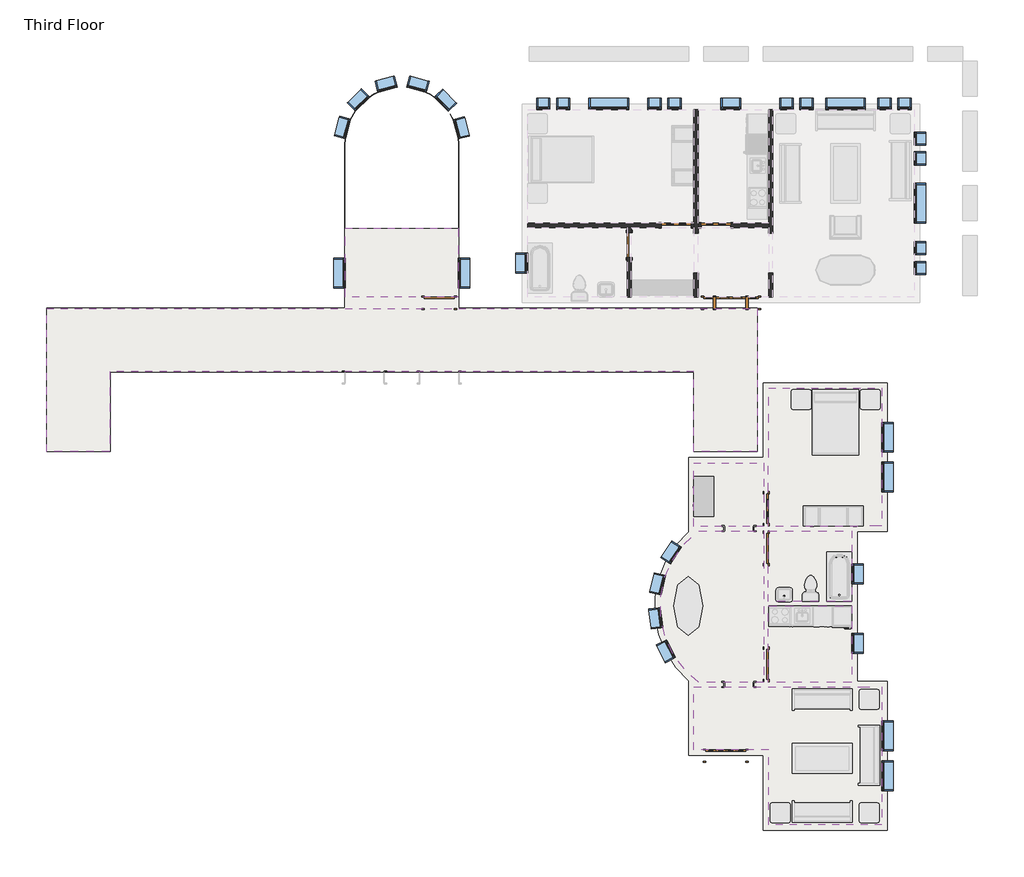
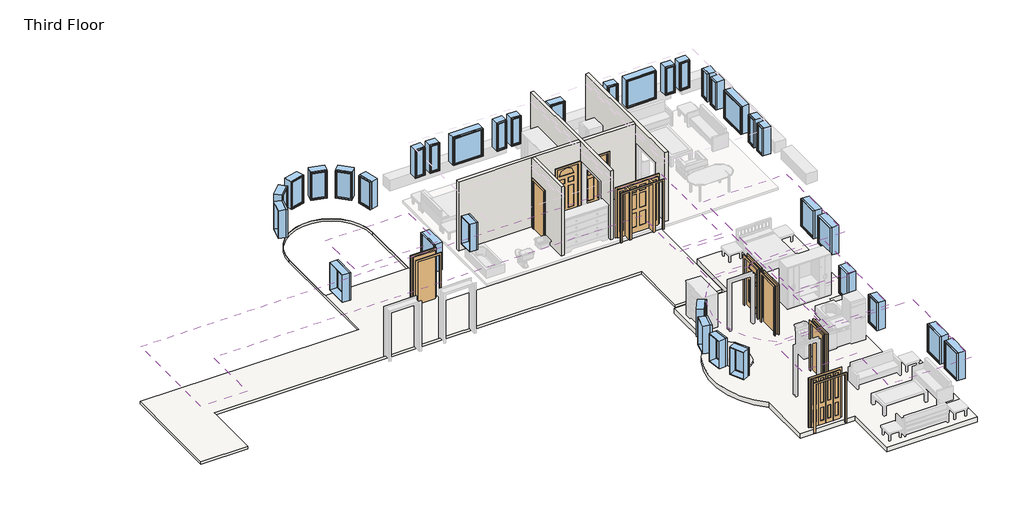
# One storey, part 1 of 2: 35 windows, 9 doors, 8 coverings, 5 walls, 2 slabs.
"""IFC4 building model written with IfcOpenShell, lengths in millimetres."""

from ifc_helpers import new_model, si_unit, point, frame, frame_2d, origin, place, context, project, spatial, polyline, circle_curve, trimmed, segment, composite_curve, outline, extrude, faceted_brep, transform, mapped, element, save
from components import m_bifold_4_panel_1220_x_2134mm_1a506c01, m_single_decorative_2_0915_x_2134mm_cc9a65e4, m_single_flush_0915_x_2134mm_ab9b6334, m_single_flush_0915_x_2134mm_08e0827a, door_829da954, door_2e3b4da2, door_4d6c7550, door_632be17d, door_dba5aa2e, window_da97879f, window_d61ef850, window_60baf983, window_15c49d37, window_6eb97611, m_fixed_0610_x_1220mm_2b91b687, m_fixed_0610_x_1220mm_9ad90eeb, m_fixed_0915_x_1220mm_ca90dcf7

model = new_model("IFC4")

# Units and contexts
model_context = context("Model", 3, world=origin())
ifc_project = project(units=[si_unit("LENGTHUNIT", "METRE", prefix="MILLI")], contexts=[model_context])

# Site, building, storey
site = spatial("IfcSite", under=ifc_project)
building = spatial("IfcBuilding", under=site)
storey = spatial("IfcBuildingStorey", under=building, Name="Third Floor", Elevation=6096.0)

# Coverings
placement = place(None, origin())
element("IfcCovering", 1, ObjectType="GWB on Mtl. Stud", at=placement, inside=storey, context=model_context, shape_type="SweptSolid", body=[
    extrude(outline(polyline([(-13333.3839563, 4526.4441867), (-16790.9589563, 4526.4441867), (-16790.9589563, 6636.2316867), (-13333.3839563, 6636.2316867), (-13333.3839563, 4526.4441867)])), frame((0.0, 0.0, 8534.4), z_axis=(0.0, 0.0, 1.0), x_axis=(1.0, 0.0, 0.0)), (0.0, 0.0, 1.0), 107.95),
])
element("IfcCovering", 2, ObjectType="GWB on Mtl. Stud", at=placement, inside=storey, context=model_context, shape_type="SweptSolid", body=[
    extrude(outline(polyline([(-6122.9589563, -197.9558133), (-6122.9589563, 2240.4441867), (-24001.3839563, 2240.4441867), (-24001.3839563, -197.9558133), (-25934.9589563, -197.9558133), (-25934.9589563, 4174.0191867), (-4189.3839563, 4174.0191867), (-4189.3839563, -197.9558133), (-6122.9589563, -197.9558133)])), frame((0.0, 0.0, 8534.4), z_axis=(0.0, 0.0, 1.0), x_axis=(1.0, 0.0, 0.0)), (0.0, 0.0, 1.0), 107.95),
])
element("IfcCovering", 3, ObjectType="Plain", at=placement, inside=storey, context=model_context, shape_type="SweptSolid", body=[
    extrude(outline(polyline([(-3836.9589563, -374.1683133), (-3836.9589563, 1735.6191867), (-379.3839563, 1735.6191867), (-379.3839563, -2483.9558133), (-1117.5714563, -2483.9558133), (-1117.5714563, -2492.4183133), (-3845.4214563, -2492.4183133), (-3845.4214563, -374.1683133), (-3836.9589563, -374.1683133)])), frame((0.0, 0.0, 8687.0), z_axis=(0.0, 0.0, 1.0), x_axis=(1.0, 0.0, 0.0)), (0.0, 0.0, 1.0), 57.0),
])
element("IfcCovering", 4, ObjectType="Plain", at=placement, inside=storey, context=model_context, shape_type="SweptSolid", body=[
    extrude(outline(polyline([(-3845.4214563, -2627.9183133), (-1293.7839563, -2627.9183133), (-1293.7839563, -4793.7683133), (-3845.4214563, -4793.7683133), (-3845.4214563, -2627.9183133)])), frame((0.0, 0.0, 8687.0), z_axis=(0.0, 0.0, 1.0), x_axis=(1.0, 0.0, 0.0)), (0.0, 0.0, 1.0), 57.0),
])
element("IfcCovering", 5, ObjectType="Plain", at=placement, inside=storey, context=model_context, shape_type="SweptSolid", body=[
    extrude(outline(polyline([(-3845.4214563, -4929.2683133), (-1293.7839563, -4929.2683133), (-1293.7839563, -7264.4183133), (-3845.4214563, -7264.4183133), (-3845.4214563, -4929.2683133)])), frame((0.0, 0.0, 8687.0), z_axis=(0.0, 0.0, 1.0), x_axis=(1.0, 0.0, 0.0)), (0.0, 0.0, 1.0), 57.0),
])
element("IfcCovering", 6, ObjectType="Plain", at=placement, inside=storey, context=model_context, shape_type="SweptSolid", body=[
    extrude(outline(polyline([(-6122.9589563, -7399.9183133), (-1117.5714563, -7399.9183133), (-1117.5714563, -7408.3808133), (-379.3839563, -7408.3808133), (-379.3839563, -11627.9558133), (-3836.9589563, -11627.9558133), (-3836.9589563, -9341.9558133), (-6122.9589563, -9341.9558133), (-6122.9589563, -7399.9183133)])), frame((0.0, 0.0, 8687.0), z_axis=(0.0, 0.0, 1.0), x_axis=(1.0, 0.0, 0.0)), (0.0, 0.0, 1.0), 57.0),
])
element("IfcCovering", 7, ObjectType="Plain", at=placement, inside=storey, context=model_context, shape_type="SweptSolid", body=[
    extrude(outline(composite_curve([segment(trimmed(circle_curve(frame_2d((-4283.1089573, -4946.1683133)), 2871.7875), [point((-5978.0662968, -7264.4183133))], [point((-5978.0662968, -2627.9183133))], False, "CARTESIAN"), True, "CONTINUOUS"), segment(polyline([(-5978.0662968, -2627.9183133), (-3980.9214563, -2627.9183133), (-3980.9214563, -7264.4183133), (-5978.0662968, -7264.4183133)]), True, "CONTINUOUS")], self_intersect=False)), frame((0.0, 0.0, 8687.0), z_axis=(0.0, 0.0, 1.0), x_axis=(1.0, 0.0, 0.0)), (0.0, 0.0, 1.0), 57.0),
])
element("IfcCovering", 8, ObjectType="Plain", at=placement, inside=storey, context=model_context, shape_type="SweptSolid", body=[
    extrude(outline(polyline([(-6122.9589563, -2492.4183133), (-6122.9589563, -550.3808133), (-3980.9214563, -550.3808133), (-3980.9214563, -2492.4183133), (-6122.9589563, -2492.4183133)])), frame((0.0, 0.0, 8687.0), z_axis=(0.0, 0.0, 1.0), x_axis=(1.0, 0.0, 0.0)), (0.0, 0.0, 1.0), 57.0),
])

# Doors
m_bifold_4_panel_1220_x_2134mm_shape = m_bifold_4_panel_1220_x_2134mm_1a506c01(model_context)
element("IfcDoor", 9, ObjectType="M_Bifold-4 Panel : 1220 x 2134mm", at=placement, inside=storey, context=model_context, shape_type="MappedRepresentation", body=[
    mapped(m_bifold_4_panel_1220_x_2134mm_shape, transform((-5156.1714563, -9518.1683133, 6096.0), x_axis=(1.0, 0.0, 0.0), y_axis=(0.0, 1.0, 0.0), z_axis=(0.0, 0.0, 1.0))),
])
m_single_decorative_2_0915_x_2134mm_shape = m_single_decorative_2_0915_x_2134mm_cc9a65e4(model_context)
element("IfcDoor", 10, ObjectType="M_Single-Decorative 2 : 0915 x 2134mm", at=placement, inside=storey, context=model_context, shape_type="MappedRepresentation", body=[
    mapped(m_single_decorative_2_0915_x_2134mm_shape, transform((-3913.1714563, -1953.9183133, 6096.0), x_axis=(0.0, -1.0, 0.0), y_axis=(1.0, 0.0, 0.0), z_axis=(0.0, 0.0, 1.0))),
])
m_single_flush_0915_x_2134mm_shape = m_single_flush_0915_x_2134mm_ab9b6334(model_context)
element("IfcDoor", 11, ObjectType="M_Single-Flush : 0915 x 2134mm", at=placement, inside=storey, context=model_context, shape_type="MappedRepresentation", body=[
    mapped(m_single_flush_0915_x_2134mm_shape, transform((-3913.1714563, -3173.9183133, 6096.0), x_axis=(0.0, 1.0, 0.0), y_axis=(-1.0, 0.0, 0.0), z_axis=(0.0, 0.0, 1.0))),
])
m_single_flush_0915_x_2134mm_2_shape = m_single_flush_0915_x_2134mm_08e0827a(model_context)
element("IfcDoor", 12, ObjectType="M_Single-Flush : 0915 x 2134mm", at=placement, inside=storey, context=model_context, shape_type="MappedRepresentation", body=[
    mapped(m_single_flush_0915_x_2134mm_2_shape, transform((-3913.1714563, -6722.1683133, 6096.0), x_axis=(0.0, -1.0, 0.0), y_axis=(1.0, 0.0, 0.0), z_axis=(0.0, 0.0, 1.0))),
])
door_shape = door_829da954(model_context)
element("IfcDoor", 13, ObjectType="Single-Decorative 2 : 36\" x 84\"", at=placement, inside=storey, context=model_context, shape_type="MappedRepresentation", body=[
    mapped(door_shape, transform((-5449.8589563, 6723.5441867, 6096.0), x_axis=(-1.0, 0.0, 0.0), y_axis=(0.0, -1.0, 0.0), z_axis=(0.0, 0.0, 1.0))),
])
door_2_shape = door_2e3b4da2(model_context)
element("IfcDoor", 14, ObjectType="Single-Decorative 2 : 36\" x 84\"", at=placement, inside=storey, context=model_context, shape_type="MappedRepresentation", body=[
    mapped(door_2_shape, transform((-6669.0589563, 6723.5441867, 6096.0), x_axis=(1.0, 0.0, 0.0), y_axis=(0.0, 1.0, 0.0), z_axis=(0.0, 0.0, 1.0))),
])
door_3_shape = door_4d6c7550(model_context)
element("IfcDoor", 15, ObjectType="Single-Flush : 30\" x 84\"", at=placement, inside=storey, context=model_context, shape_type="MappedRepresentation", body=[
    mapped(door_3_shape, transform((-8105.7464563, 6113.9441867, 6096.0), x_axis=(0.0, 1.0, 0.0), y_axis=(-1.0, 0.0, 0.0), z_axis=(0.0, 0.0, 1.0))),
])
door_4_shape = door_632be17d(model_context)
element("IfcDoor", 16, ObjectType="Single-Flush : 36\" x 84\"", at=placement, inside=storey, context=model_context, shape_type="MappedRepresentation", body=[
    mapped(door_4_shape, transform((-13919.1714563, 4350.2316867, 6096.0), x_axis=(1.0, 0.0, 0.0), y_axis=(0.0, 1.0, 0.0), z_axis=(0.0, 0.0, 1.0))),
])
door_5_shape = door_dba5aa2e(model_context)
element("IfcDoor", 17, ObjectType="Single-Raised Panel with Sidelights : 36\" x 84\"", at=placement, inside=storey, context=model_context, shape_type="MappedRepresentation", body=[
    mapped(door_5_shape, transform((-4992.6589563, 4350.2316867, 6096.0), x_axis=(-1.0, 0.0, 0.0), y_axis=(0.0, -1.0, 0.0), z_axis=(0.0, 0.0, 1.0))),
])

# Slabs
element("IfcSlab", 18, ObjectType="160mm Concrete With 50mm Metal Deck", at=placement, inside=storey, context=model_context, shape_type="SweptSolid", body=[
    extrude(outline(composite_curve([segment(polyline([(-214.2839563, 1900.7191867), (-214.2839563, -2649.0558133), (-1128.6839563, -2649.0558133), (-1128.6839563, -7243.2808133), (-214.2839563, -7243.2808133), (-214.2839563, -11793.0558133), (-4002.0589563, -11793.0558133), (-4002.0589563, -9507.0558133), (-6288.0589563, -9507.0558133), (-6288.0589563, -7227.1464344)]), True, "CONTINUOUS"), segment(trimmed(circle_curve(frame_2d((-4283.1089573, -4946.1683133)), 3036.8875), [point((-6288.0589563, -7227.1464344))], [point((-6288.0589563, -2665.1901922))], False, "CARTESIAN"), True, "CONTINUOUS"), segment(polyline([(-6288.0589563, -2665.1901922), (-6288.0589563, -385.2808133), (-4002.0589563, -385.2808133), (-4002.0589563, 1900.7191867), (-214.2839563, 1900.7191867)]), True, "CONTINUOUS")], self_intersect=False)), frame((0.0, 0.0, 5886.0), z_axis=(0.0, 0.0, 1.0), x_axis=(1.0, 0.0, 0.0)), (0.0, 0.0, 1.0), 210.0),
])
element("IfcSlab", 19, ObjectType="LW Concrete on Metal Deck", at=placement, inside=storey, context=model_context, shape_type="SweptSolid", body=[
    extrude(outline(composite_curve([segment(polyline([(-13320.6839563, 9227.0316867), (-13320.6839563, 4186.7191867), (-4189.3839563, 4186.7191867), (-4189.3839563, -197.9558133), (-6135.6589563, -197.9558133), (-6135.6589563, 2227.7441867), (-23988.6839563, 2227.7441867), (-23988.6839563, -197.9558133), (-25934.9589563, -197.9558133), (-25934.9589563, 4186.7191867), (-16803.6589563, 4186.7191867), (-16803.6589563, 9227.0316867)]), True, "CONTINUOUS"), segment(trimmed(circle_curve(frame_2d((-15062.1714563, 9227.0316867)), 1741.4875), [point((-16803.6589563, 9227.0316867))], [point((-13320.6839563, 9227.0316867))], False, "CARTESIAN"), True, "CONTINUOUS")], self_intersect=False), holes=[composite_curve([segment(polyline([(-16790.9589563, 6636.2316867), (-13333.3839563, 6636.2316867), (-13333.3839563, 9227.0316867)]), True, "CONTINUOUS"), segment(trimmed(circle_curve(frame_2d((-15062.1714563, 9227.0316867)), 1728.7875), [point((-13333.3839563, 9227.0316867))], [point((-16790.9589563, 9227.0316867))], True, "CARTESIAN"), True, "CONTINUOUS"), segment(polyline([(-16790.9589563, 9227.0316867), (-16790.9589563, 6636.2316867)]), True, "CONTINUOUS")], self_intersect=False)]), frame((0.0, 0.0, 5991.225), z_axis=(0.0, 0.0, 1.0), x_axis=(1.0, 0.0, 0.0)), (0.0, 0.0, 1.0), 104.775),
])

# Walls
element("IfcWall", 20, ObjectType="Interior - 5\" Partition (2-hr)", at=placement, inside=storey, context=model_context, shape_type="Brep", body=[
    faceted_brep([(-3709.9589563, 10270.0191867, 6096.0), (-3709.9589563, 6483.8316867, 6096.0), (-3836.9589563, 6483.8316867, 6096.0), (-3836.9589563, 6660.0441867, 6096.0), (-3836.9589563, 6787.0441867, 6096.0), (-3836.9589563, 10270.0191867, 6096.0), (-3709.9589563, 5264.6316867, 6096.0), (-3709.9589563, 4526.4441867, 6096.0), (-3836.9589563, 4526.4441867, 6096.0), (-3836.9589563, 5264.6316867, 6096.0), (-3836.9589563, 10270.0191867, 9144.0), (-3836.9589563, 6787.0441867, 9144.0), (-3836.9589563, 6660.0441867, 9144.0), (-3836.9589563, 4526.4441867, 9144.0), (-3709.9589563, 4526.4441867, 9144.0), (-3709.9589563, 10270.0191867, 9144.0), (-3836.9589563, 6483.8316867, 8229.6), (-3836.9589563, 5264.6316867, 8229.6), (-3709.9589563, 6483.8316867, 8229.6), (-3709.9589563, 5264.6316867, 8229.6)], [[[0, 1, 2, 3, 4, 5]], [[6, 7, 8, 9]], [[10, 11, 12, 13, 14, 15]], [[5, 4, 3, 2, 16, 17, 9, 8, 13, 12, 11, 10]], [[18, 1, 0, 15, 14, 7, 6, 19]], [[5, 10, 15, 0]], [[13, 8, 7, 14]], [[9, 17, 19, 6]], [[16, 2, 1, 18]], [[17, 16, 18, 19]]]),
])
element("IfcWall", 21, ObjectType="Interior - 5\" Partition (2-hr)", at=placement, inside=storey, context=model_context, shape_type="Brep", body=[
    faceted_brep([(-6122.9589563, 4526.4441867, 6096.0), (-6122.9589563, 5264.6316867, 6096.0), (-5995.9589563, 5264.6316867, 6096.0), (-5995.9589563, 4526.4441867, 6096.0), (-6122.9589563, 6483.8316867, 6096.0), (-6122.9589563, 6660.0441867, 6096.0), (-6122.9589563, 6787.0441867, 6096.0), (-6122.9589563, 10270.0191867, 6096.0), (-5995.9589563, 10270.0191867, 6096.0), (-5995.9589563, 6787.0441867, 6096.0), (-5995.9589563, 6660.0441867, 6096.0), (-5995.9589563, 6483.8316867, 6096.0), (-6122.9589563, 10270.0191867, 9144.0), (-6122.9589563, 6787.0441867, 9144.0), (-6122.9589563, 6660.0441867, 9144.0), (-6122.9589563, 4526.4441867, 9144.0), (-5995.9589563, 4526.4441867, 9144.0), (-5995.9589563, 6660.0441867, 9144.0), (-5995.9589563, 6787.0441867, 9144.0), (-5995.9589563, 10270.0191867, 9144.0), (-6122.9589563, 5264.6316867, 8229.6), (-6122.9589563, 6483.8316867, 8229.6), (-5995.9589563, 5264.6316867, 8229.6), (-5995.9589563, 6483.8316867, 8229.6)], [[[0, 1, 2, 3]], [[4, 5, 6, 7, 8, 9, 10, 11]], [[12, 13, 14, 15, 16, 17, 18, 19]], [[20, 1, 0, 15, 14, 13, 12, 7, 6, 5, 4, 21]], [[3, 2, 22, 23, 11, 10, 9, 8, 19, 18, 17, 16]], [[7, 12, 19, 8]], [[15, 0, 3, 16]], [[11, 23, 21, 4]], [[22, 2, 1, 20]], [[23, 22, 20, 21]]]),
])
element("IfcWall", 22, ObjectType="Interior - 5\" Partition (2-hr)", at=placement, inside=storey, context=model_context, shape_type="Brep", body=[
    faceted_brep([(-6122.9589563, 6660.0441867, 6096.0), (-6211.8589563, 6660.0441867, 6096.0), (-6211.8589563, 6787.0441867, 6096.0), (-6122.9589563, 6787.0441867, 6096.0), (-7126.2589563, 6660.0441867, 6096.0), (-8042.2464563, 6660.0441867, 6096.0), (-8169.2464563, 6660.0441867, 6096.0), (-11217.2464563, 6660.0441867, 6096.0), (-11217.2464563, 6787.0441867, 6096.0), (-7126.2589563, 6787.0441867, 6096.0), (-11217.2464563, 6660.0441867, 9144.0), (-8169.2464563, 6660.0441867, 9144.0), (-8042.2464563, 6660.0441867, 9144.0), (-6122.9589563, 6660.0441867, 9144.0), (-6122.9589563, 6787.0441867, 9144.0), (-11217.2464563, 6787.0441867, 9144.0), (-6211.8589563, 6660.0441867, 8229.6), (-7126.2589563, 6660.0441867, 8229.6), (-6211.8589563, 6787.0441867, 8229.6), (-7126.2589563, 6787.0441867, 8229.6)], [[[0, 1, 2, 3]], [[4, 5, 6, 7, 8, 9]], [[10, 11, 12, 13, 14, 15]], [[16, 1, 0, 13, 12, 11, 10, 7, 6, 5, 4, 17]], [[3, 2, 18, 19, 9, 8, 15, 14]], [[13, 0, 3, 14]], [[7, 10, 15, 8]], [[18, 2, 1, 16]], [[19, 18, 16, 17]], [[9, 19, 17, 4]]]),
])
element("IfcWall", 23, ObjectType="Interior - 5\" Partition (2-hr)", at=placement, inside=storey, context=model_context, shape_type="SweptSolid", body=[
    extrude(outline(polyline([(6660.0441867, 6096.0), (6494.9441867, 6096.0), (6494.9441867, 8229.6), (5732.9441867, 8229.6), (5732.9441867, 6096.0), (4526.4441867, 6096.0), (4526.4441867, 9144.0), (6660.0441867, 9144.0), (6660.0441867, 6096.0)])), frame((-8169.2464563, 0.0, 0.0), z_axis=(1.0, 0.0, 0.0), x_axis=(0.0, 1.0, 0.0)), (0.0, 0.0, 1.0), 127.0),
])
element("IfcWall", 24, ObjectType="Interior - 5\" Partition (2-hr)", at=placement, inside=storey, context=model_context, shape_type="SweptSolid", body=[
    extrude(outline(polyline([(6096.0, -5995.9589563), (6096.0, -5907.0589563), (8229.6, -5907.0589563), (8229.6, -4992.6589563), (6096.0, -4992.6589563), (6096.0, -3836.9589563), (9144.0, -3836.9589563), (9144.0, -5995.9589563), (6096.0, -5995.9589563)])), frame((0.0, 6660.0441867, 0.0), z_axis=(0.0, 1.0, 0.0), x_axis=(0.0, 0.0, 1.0)), (0.0, 0.0, 1.0), 127.0),
])

# Windows
window_shape = window_da97879f(model_context)
element("IfcWindow", 25, ObjectType="Fixed : 16\" x 48\"", at=placement, inside=storey, context=model_context, shape_type="MappedRepresentation", body=[
    mapped(window_shape, transform((-10771.1589563, 10446.2316867, 6096.0), x_axis=(-1.0, 0.0, 0.0), y_axis=(0.0, -1.0, 0.0), z_axis=(0.0, 0.0, 1.0))),
])
element("IfcWindow", 26, ObjectType="Fixed : 16\" x 48\"", at=placement, inside=storey, context=model_context, shape_type="MappedRepresentation", body=[
    mapped(window_shape, transform((-10161.5589563, 10446.2316867, 6096.0), x_axis=(-1.0, 0.0, 0.0), y_axis=(0.0, -1.0, 0.0), z_axis=(0.0, 0.0, 1.0))),
])
element("IfcWindow", 27, ObjectType="Fixed : 16\" x 48\"", at=placement, inside=storey, context=model_context, shape_type="MappedRepresentation", body=[
    mapped(window_shape, transform((-3328.9589563, 10446.2316867, 6096.0), x_axis=(-1.0, 0.0, 0.0), y_axis=(0.0, -1.0, 0.0), z_axis=(0.0, 0.0, 1.0))),
])
element("IfcWindow", 28, ObjectType="Fixed : 16\" x 48\"", at=placement, inside=storey, context=model_context, shape_type="MappedRepresentation", body=[
    mapped(window_shape, transform((-2719.3589563, 10446.2316867, 6096.0), x_axis=(-1.0, 0.0, 0.0), y_axis=(0.0, -1.0, 0.0), z_axis=(0.0, 0.0, 1.0))),
])
element("IfcWindow", 29, ObjectType="Fixed : 16\" x 48\"", at=placement, inside=storey, context=model_context, shape_type="MappedRepresentation", body=[
    mapped(window_shape, transform((798.5410437, 9417.5316867, 6096.0), x_axis=(0.0, 1.0, 0.0), y_axis=(-1.0, 0.0, 0.0), z_axis=(0.0, 0.0, 1.0))),
])
element("IfcWindow", 30, ObjectType="Fixed : 16\" x 48\"", at=placement, inside=storey, context=model_context, shape_type="MappedRepresentation", body=[
    mapped(window_shape, transform((798.5410437, 8807.9316867, 6096.0), x_axis=(0.0, 1.0, 0.0), y_axis=(-1.0, 0.0, 0.0), z_axis=(0.0, 0.0, 1.0))),
])
window_2_shape = window_d61ef850(model_context)
element("IfcWindow", 31, ObjectType="Fixed : 16\" x 48\"", at=placement, inside=storey, context=model_context, shape_type="MappedRepresentation", body=[
    mapped(window_2_shape, transform((-6681.7589563, 10446.2316867, 6096.0), x_axis=(1.0, 0.0, 0.0), y_axis=(0.0, 1.0, 0.0), z_axis=(0.0, 0.0, 1.0))),
])
element("IfcWindow", 32, ObjectType="Fixed : 16\" x 48\"", at=placement, inside=storey, context=model_context, shape_type="MappedRepresentation", body=[
    mapped(window_2_shape, transform((-7291.3589563, 10446.2316867, 6096.0), x_axis=(1.0, 0.0, 0.0), y_axis=(0.0, 1.0, 0.0), z_axis=(0.0, 0.0, 1.0))),
])
element("IfcWindow", 33, ObjectType="Fixed : 16\" x 48\"", at=placement, inside=storey, context=model_context, shape_type="MappedRepresentation", body=[
    mapped(window_2_shape, transform((354.0410437, 10446.2316867, 6096.0), x_axis=(1.0, 0.0, 0.0), y_axis=(0.0, 1.0, 0.0), z_axis=(0.0, 0.0, 1.0))),
])
element("IfcWindow", 34, ObjectType="Fixed : 16\" x 48\"", at=placement, inside=storey, context=model_context, shape_type="MappedRepresentation", body=[
    mapped(window_2_shape, transform((-255.5589563, 10446.2316867, 6096.0), x_axis=(1.0, 0.0, 0.0), y_axis=(0.0, 1.0, 0.0), z_axis=(0.0, 0.0, 1.0))),
])
element("IfcWindow", 35, ObjectType="Fixed : 16\" x 48\"", at=placement, inside=storey, context=model_context, shape_type="MappedRepresentation", body=[
    mapped(window_2_shape, transform((798.5410437, 5378.9316867, 6096.0), x_axis=(0.0, -1.0, 0.0), y_axis=(1.0, 0.0, 0.0), z_axis=(0.0, 0.0, 1.0))),
])
element("IfcWindow", 36, ObjectType="Fixed : 16\" x 48\"", at=placement, inside=storey, context=model_context, shape_type="MappedRepresentation", body=[
    mapped(window_2_shape, transform((798.5410437, 5988.5316867, 6096.0), x_axis=(0.0, -1.0, 0.0), y_axis=(1.0, 0.0, 0.0), z_axis=(0.0, 0.0, 1.0))),
])
window_3_shape = window_60baf983(model_context)
element("IfcWindow", 37, ObjectType="Fixed : 24\" x 48\"", at=placement, inside=storey, context=model_context, shape_type="MappedRepresentation", body=[
    mapped(window_3_shape, transform((-5030.7589563, 10446.2316867, 6096.0), x_axis=(-1.0, 0.0, 0.0), y_axis=(0.0, -1.0, 0.0), z_axis=(0.0, 0.0, 1.0))),
])
element("IfcWindow", 38, ObjectType="Fixed : 24\" x 48\"", at=placement, inside=storey, context=model_context, shape_type="MappedRepresentation", body=[
    mapped(window_3_shape, transform((-11393.4589563, 5531.3316867, 6096.0), x_axis=(0.0, -1.0, 0.0), y_axis=(1.0, 0.0, 0.0), z_axis=(0.0, 0.0, 1.0))),
])
element("IfcWindow", 39, ObjectType="Fixed : 24\" x 48\"", at=placement, inside=storey, context=model_context, shape_type="MappedRepresentation", body=[
    mapped(window_3_shape, transform((-16889.064163, 9683.0417496, 6096.0), x_axis=(-0.26176149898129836, -0.9651325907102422, 0.0), y_axis=(0.9651325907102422, -0.26176149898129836, 0.0), z_axis=(0.0, 0.0, 1.0))),
])
element("IfcWindow", 40, ObjectType="Fixed : 24\" x 48\"", at=placement, inside=storey, context=model_context, shape_type="MappedRepresentation", body=[
    mapped(window_3_shape, transform((-16416.3019188, 10535.3943388, 6096.0), x_axis=(-0.7092584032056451, -0.7049485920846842, 0.0), y_axis=(0.7049485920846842, -0.7092584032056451, 0.0), z_axis=(0.0, 0.0, 1.0))),
])
element("IfcWindow", 41, ObjectType="Fixed : 24\" x 48\"", at=placement, inside=storey, context=model_context, shape_type="MappedRepresentation", body=[
    mapped(window_3_shape, transform((-15580.7015108, 11037.1722121, 6096.0), x_axis=(-0.9667100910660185, -0.25587418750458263, 0.0), y_axis=(0.25587418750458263, -0.9667100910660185, 0.0), z_axis=(0.0, 0.0, 1.0))),
])
element("IfcWindow", 42, ObjectType="Fixed : 24\" x 48\"", at=placement, inside=storey, context=model_context, shape_type="MappedRepresentation", body=[
    mapped(window_3_shape, transform((-14606.1613934, 11053.9243933, 6096.0), x_axis=(-0.9651325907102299, 0.2617614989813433, 0.0), y_axis=(-0.2617614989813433, -0.9651325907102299, 0.0), z_axis=(0.0, 0.0, 1.0))),
])
element("IfcWindow", 43, ObjectType="Fixed : 24\" x 48\"", at=placement, inside=storey, context=model_context, shape_type="MappedRepresentation", body=[
    mapped(window_3_shape, transform((-13753.8088042, 10581.1621492, 6096.0), x_axis=(-0.7049485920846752, 0.7092584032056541, 0.0), y_axis=(-0.7092584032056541, -0.7049485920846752, 0.0), z_axis=(0.0, 0.0, 1.0))),
])
element("IfcWindow", 44, ObjectType="Fixed : 24\" x 48\"", at=placement, inside=storey, context=model_context, shape_type="MappedRepresentation", body=[
    mapped(window_3_shape, transform((-13252.0309309, 9745.5617412, 6096.0), x_axis=(-0.25587418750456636, 0.9667100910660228, 0.0), y_axis=(-0.9667100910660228, -0.25587418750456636, 0.0), z_axis=(0.0, 0.0, 1.0))),
])
window_4_shape = window_15c49d37(model_context)
element("IfcWindow", 45, ObjectType="Fixed : 36\" x 48\"", at=placement, inside=storey, context=model_context, shape_type="MappedRepresentation", body=[
    mapped(window_4_shape, transform((-16967.1714563, 5226.5316867, 6096.0), x_axis=(0.0, -1.0, 0.0), y_axis=(1.0, 0.0, 0.0), z_axis=(0.0, 0.0, 1.0))),
])
element("IfcWindow", 46, ObjectType="Fixed : 36\" x 48\"", at=placement, inside=storey, context=model_context, shape_type="MappedRepresentation", body=[
    mapped(window_4_shape, transform((-13157.1714563, 5302.7316867, 6096.0), x_axis=(0.0, 1.0, 0.0), y_axis=(-1.0, 0.0, 0.0), z_axis=(0.0, 0.0, 1.0))),
])
window_5_shape = window_6eb97611(model_context)
element("IfcWindow", 47, ObjectType="Fixed : 48\" x 48\"", at=placement, inside=storey, context=model_context, shape_type="MappedRepresentation", body=[
    mapped(window_5_shape, transform((-8764.5589563, 10446.2316867, 6096.0), x_axis=(-1.0, 0.0, 0.0), y_axis=(0.0, -1.0, 0.0), z_axis=(0.0, 0.0, 1.0))),
])
element("IfcWindow", 48, ObjectType="Fixed : 48\" x 48\"", at=placement, inside=storey, context=model_context, shape_type="MappedRepresentation", body=[
    mapped(window_5_shape, transform((-1525.5589563, 10446.2316867, 6096.0), x_axis=(-1.0, 0.0, 0.0), y_axis=(0.0, -1.0, 0.0), z_axis=(0.0, 0.0, 1.0))),
])
element("IfcWindow", 49, ObjectType="Fixed : 48\" x 48\"", at=placement, inside=storey, context=model_context, shape_type="MappedRepresentation", body=[
    mapped(window_5_shape, transform((798.5410437, 7436.3316867, 6096.0), x_axis=(0.0, 1.0, 0.0), y_axis=(-1.0, 0.0, 0.0), z_axis=(0.0, 0.0, 1.0))),
])
m_fixed_0610_x_1220mm_shape = m_fixed_0610_x_1220mm_2b91b687(model_context)
element("IfcWindow", 50, ObjectType="M_Fixed : 0610 x 1220mm", at=placement, inside=storey, context=model_context, shape_type="MappedRepresentation", body=[
    mapped(m_fixed_0610_x_1220mm_shape, transform((-1104.5714563, -3947.1183133, 6096.0), x_axis=(0.0, 1.0, 0.0), y_axis=(-1.0, 0.0, 0.0), z_axis=(0.0, 0.0, 1.0))),
])
element("IfcWindow", 51, ObjectType="M_Fixed : 0610 x 1220mm", at=placement, inside=storey, context=model_context, shape_type="MappedRepresentation", body=[
    mapped(m_fixed_0610_x_1220mm_shape, transform((-1104.5714563, -6080.7183133, 6096.0), x_axis=(0.0, 1.0, 0.0), y_axis=(-1.0, 0.0, 0.0), z_axis=(0.0, 0.0, 1.0))),
])
element("IfcWindow", 52, ObjectType="M_Fixed : 0610 x 1220mm", at=placement, inside=storey, context=model_context, shape_type="MappedRepresentation", body=[
    mapped(m_fixed_0610_x_1220mm_shape, transform((-6832.8777071, -3282.0683061, 6096.0), x_axis=(-0.5465459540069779, -0.8374291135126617, 0.0), y_axis=(0.8374291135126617, -0.5465459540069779, 0.0), z_axis=(0.0, 0.0, 1.0))),
])
element("IfcWindow", 53, ObjectType="M_Fixed : 0610 x 1220mm", at=placement, inside=storey, context=model_context, shape_type="MappedRepresentation", body=[
    mapped(m_fixed_0610_x_1220mm_shape, transform((-7248.2635591, -4254.4980895, 6096.0), x_axis=(-0.22716757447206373, -0.9738556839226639, 0.0), y_axis=(0.9738556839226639, -0.22716757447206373, 0.0), z_axis=(0.0, 0.0, 1.0))),
])
m_fixed_0610_x_1220mm_2_shape = m_fixed_0610_x_1220mm_9ad90eeb(model_context)
element("IfcWindow", 54, ObjectType="M_Fixed : 0610 x 1220mm", at=placement, inside=storey, context=model_context, shape_type="MappedRepresentation", body=[
    mapped(m_fixed_0610_x_1220mm_2_shape, transform((-6999.1462129, -6322.2828208, 6096.0), x_axis=(-0.4519619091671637, 0.8920372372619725, 0.0), y_axis=(-0.8920372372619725, -0.4519619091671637, 0.0), z_axis=(0.0, 0.0, 1.0))),
])
element("IfcWindow", 55, ObjectType="M_Fixed : 0610 x 1220mm", at=placement, inside=storey, context=model_context, shape_type="MappedRepresentation", body=[
    mapped(m_fixed_0610_x_1220mm_2_shape, transform((-7306.0080052, -5310.3535099, 6096.0), x_axis=(-0.11961056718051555, 0.9928208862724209, 0.0), y_axis=(-0.9928208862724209, -0.11961056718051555, 0.0), z_axis=(0.0, 0.0, 1.0))),
])
m_fixed_0915_x_1220mm_shape = m_fixed_0915_x_1220mm_ca90dcf7(model_context)
element("IfcWindow", 56, ObjectType="M_Fixed : 0915 x 1220mm", at=placement, inside=storey, context=model_context, shape_type="MappedRepresentation", body=[
    mapped(m_fixed_0915_x_1220mm_shape, transform((-190.1714563, 235.4316867, 6096.0), x_axis=(0.0, 1.0, 0.0), y_axis=(-1.0, 0.0, 0.0), z_axis=(0.0, 0.0, 1.0))),
])
element("IfcWindow", 57, ObjectType="M_Fixed : 0915 x 1220mm", at=placement, inside=storey, context=model_context, shape_type="MappedRepresentation", body=[
    mapped(m_fixed_0915_x_1220mm_shape, transform((-190.1714563, -983.7683133, 6096.0), x_axis=(0.0, 1.0, 0.0), y_axis=(-1.0, 0.0, 0.0), z_axis=(0.0, 0.0, 1.0))),
])
element("IfcWindow", 58, ObjectType="M_Fixed : 0915 x 1220mm", at=placement, inside=storey, context=model_context, shape_type="MappedRepresentation", body=[
    mapped(m_fixed_0915_x_1220mm_shape, transform((-190.1714563, -8908.5683133, 6096.0), x_axis=(0.0, 1.0, 0.0), y_axis=(-1.0, 0.0, 0.0), z_axis=(0.0, 0.0, 1.0))),
])
element("IfcWindow", 59, ObjectType="M_Fixed : 0915 x 1220mm", at=placement, inside=storey, context=model_context, shape_type="MappedRepresentation", body=[
    mapped(m_fixed_0915_x_1220mm_shape, transform((-190.1714563, -10127.7683133, 6096.0), x_axis=(0.0, 1.0, 0.0), y_axis=(-1.0, 0.0, 0.0), z_axis=(0.0, 0.0, 1.0))),
])

save(model, "model.ifc")
